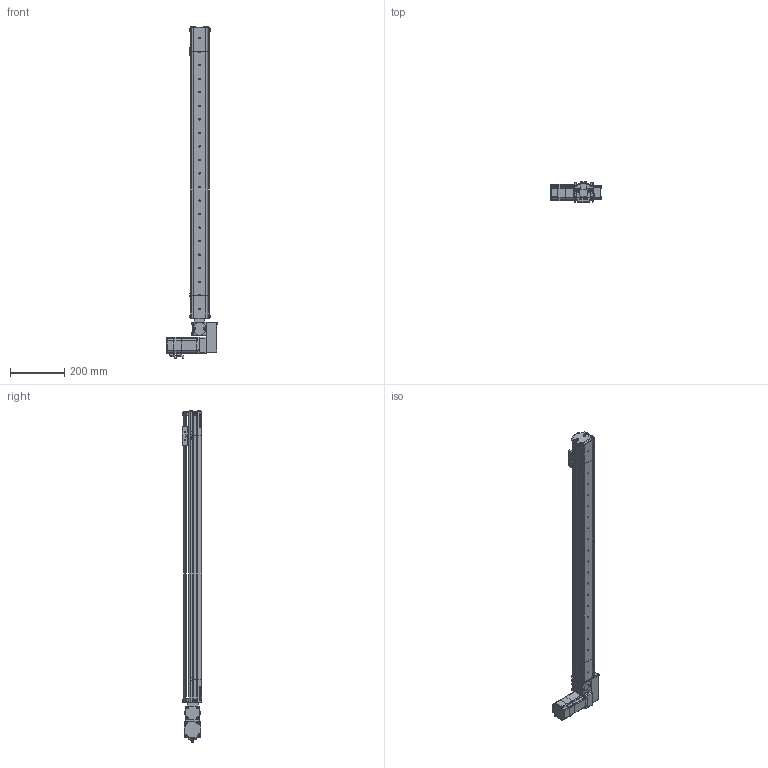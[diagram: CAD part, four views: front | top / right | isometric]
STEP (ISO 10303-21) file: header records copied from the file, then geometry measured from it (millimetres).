
FILE_DESCRIPTION (( 'STEP AP214' ), '1' );
FILE_NAME ('S07 TBN LH S900.STEP', '2010-06-29T11:44:46', ( 'Conseil Régional Haute-Normandie' ), ( 'Conseil Régional Haute-Normandie' ), 'SwSTEP 2.0', 'SolidWorks 2010', '' );
FILE_SCHEMA (( 'AUTOMOTIVE_DESIGN' ));
Length unit declared in the file: millimetre
Products named in the file (41): renvoi LH_Default; P1_Default; P2 90A_Default; Axe 60BLDC_Default; GMB 60 90 310_Default; P4_Default; P3 90A_Default; Conecteur 60BLDC_Default; VisM3_Default; corp tail TB_Default; Conecteur2 60BLDC_Default; Chariot; guide; CHariot_Default; vis M5 L16_Default; Cvis M5 L30_Default; plaque de bout_Default; couroie tail_Default; vis M5 L12_Default; Vis M5 L16-2_Default; S07 TB tail (78)_Default; Poulie_Default; couvercle tail TB; T皻e de poulie_Default; Poulie head_Default; plaque de bout LH_Default; Pièce5^S07 LH(146); vis M5 L5_Default; cache t皻e_Default; couvercle S07 course 900 ; Plaque racord_Default; Couroie t皻e_Default; S07 LH(146)_Default; corp moteur LH-RH(146)_Default; S07 TBN LH S900; Corp S07 course 900_Default; cache t皻e axe_Default; couvercle moteur S07 TB; Course C L900_Default; Couroie  course 900_Default
Assembly tree (80 placements, depth 4):
  Pièce5^S07 LH(146)
  S07 TBN LH S900
    S07 LH(146)_Default
      vis M5 L12_Default  x6
      couvercle moteur S07 TB
      cache t皻e_Default  x2
      corp moteur LH-RH(146)_Default
      vis M5 L5_Default  x6
      Vis M5 L16-2_Default  x8
      Plaque racord_Default
      Cvis M5 L30_Default  x2
      renvoi LH_Default
      GMB 60 90 310_Default
        VisM3_Default  x12
        P4_Default
        Conecteur 60BLDC_Default
        P1_Default
        Conecteur2 60BLDC_Default
        P3 90A_Default
        P2 90A_Default
        Axe 60BLDC_Default
      Couroie t皻e_Default
      Poulie head_Default
      plaque de bout LH_Default
      cache t皻e axe_Default
    S07 TB tail (78)_Default
      vis M5 L12_Default  x10
      Poulie_Default
        T皻e de poulie_Default
        Poulie_Default
      plaque de bout_Default
      corp tail TB_Default
      couroie tail_Default
      couvercle tail TB
    Course C L900_Default
      Corp S07 course 900_Default
      couvercle S07 course 900 
      Couroie  course 900_Default
    CHariot_Default
      vis M5 L16_Default  x2
      guide
      Chariot
Bounding box: 190.2 x 72.2 x 1227 mm (x, y, z)
Volume: 2491432 mm3; surface area: 1053885.6 mm2
Topology: 102 solids, 102 shells, 3932 faces, 9792 edges, 6325 vertices
Faces by surface type: plane 2234, cylinder 768, bspline 677, cone 125, torus 124, sphere 4
Entity records: 167489 total; most frequent: CARTESIAN_POINT 75253, ORIENTED_EDGE 15496, DIRECTION 12345, EDGE_CURVE 7748, VERTEX_POINT 5113, VECTOR 5055, LINE 5055, AXIS2_PLACEMENT_3D 3645
